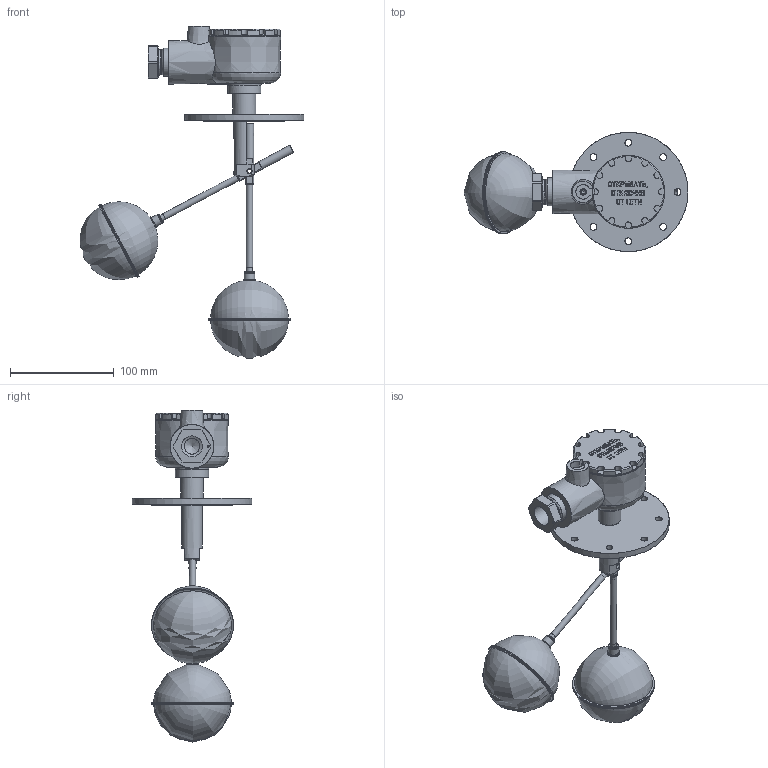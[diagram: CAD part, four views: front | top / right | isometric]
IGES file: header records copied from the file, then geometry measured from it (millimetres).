
Global section: file name: РУГ-1-Ех-Вн-Г-34,-35; native system: Autodesk Inventor 2016; preprocessor: unknown; author: hudyakovak; date: 20180706.140932; units: millimetre
Bounding box: 215.82 x 115 x 319.89 mm (x, y, z)
Surface area: 145049.7 mm2 (no closed solid volume)
Topology: 0 solids, 0 shells, 654 faces, 4361 edges, 4319 vertices
Faces by surface type: bspline 518, revolution 136
